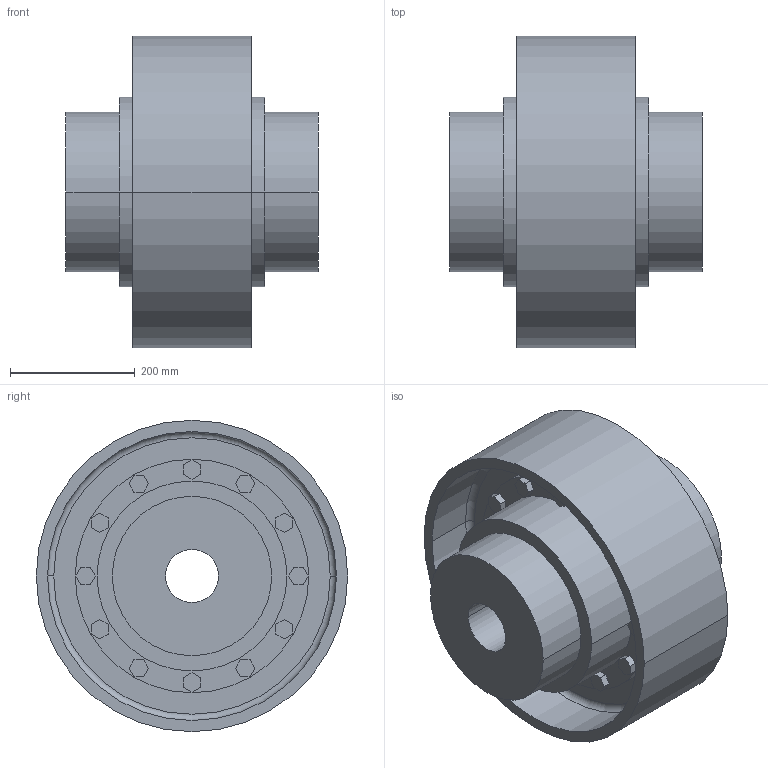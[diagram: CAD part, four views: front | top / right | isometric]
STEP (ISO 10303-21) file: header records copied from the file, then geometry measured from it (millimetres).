
FILE_DESCRIPTION((''),'2;1');
FILE_NAME('A19109900-0_ASM','2018-11-12T',('AB_Roschiwal'),('RENK AG'),'PRO/ENGINEER BY PARAMETRIC TECHNOLOGY CORPORATION, 2015440','PRO/ENGINEER BY PARAMETRIC TECHNOLOGY CORPORATION, 2015440','');
FILE_SCHEMA(('CONFIG_CONTROL_DESIGN'));
Length unit declared in the file: millimetre
Products named in the file (4): LBKD160_GEHAEUSE; LBKD160_NABE; LBKD160_BREMSSCHEIBE; A19109900-0_ASM
Assembly tree (4 placements, depth 2):
  A19109900-0_ASM
    LBKD160_GEHAEUSE
    LBKD160_NABE  x2
    LBKD160_BREMSSCHEIBE
Bounding box: 405 x 500 x 500 mm (x, y, z)
Volume: 30327619.1 mm3; surface area: 2127140.3 mm2
Topology: 4 solids, 4 shells, 292 faces, 704 edges, 468 vertices
Faces by surface type: plane 200, cylinder 88, torus 4
Entity records: 8356 total; most frequent: DIRECTION 1424, CARTESIAN_POINT 1420, ORIENTED_EDGE 1360, EDGE_CURVE 680, VECTOR 512, LINE 512, AXIS2_PLACEMENT_3D 456, VERTEX_POINT 452
